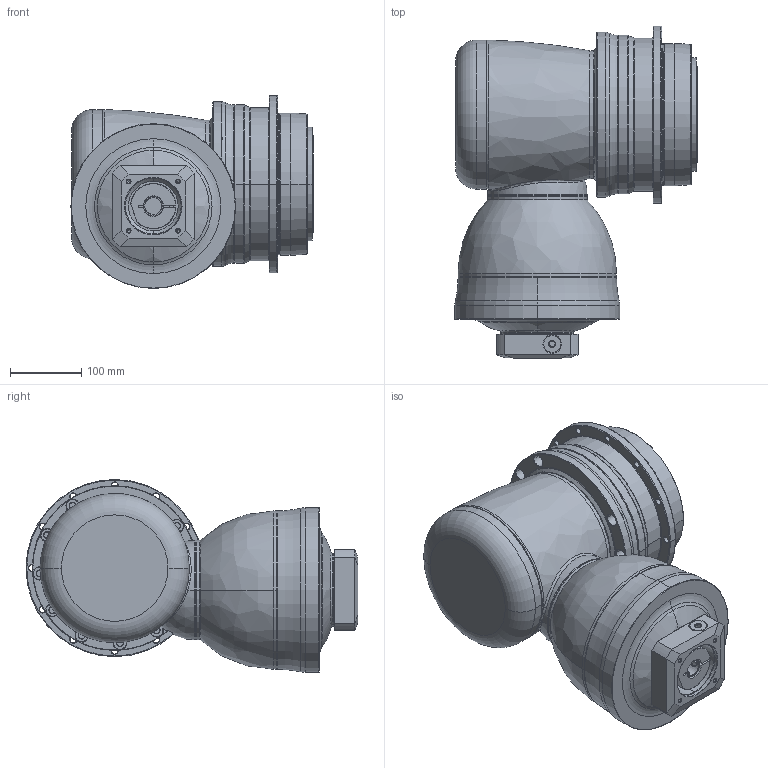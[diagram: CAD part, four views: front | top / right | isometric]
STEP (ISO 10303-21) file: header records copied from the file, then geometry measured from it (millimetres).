
FILE_DESCRIPTION((''),'2;1');
FILE_NAME('AHKB200_3ST_24-P0409500101_ASM','2016-12-14T',('d01943'),(''),'PRO/ENGINEER BY PARAMETRIC TECHNOLOGY CORPORATION, 2008410','PRO/ENGINEER BY PARAMETRIC TECHNOLOGY CORPORATION, 2008410','');
FILE_SCHEMA(('CONFIG_CONTROL_DESIGN'));
Length unit declared in the file: millimetre
Products named in the file (12): P1008600002; P1802600011; P0278600003; P0359600002; P1315600001; P1007600001; P1317600001; P0409500101; P0503500010; P0912500001; 21711418017; AHKB200_3ST_24-P0409500101_ASM
Assembly tree (11 placements, depth 2):
  AHKB200_3ST_24-P0409500101_ASM
    P1008600002
    P1802600011
    P0278600003
    P0359600002
    P1315600001
    P1007600001
    P1317600001
    P0409500101
    P0503500010
    P0912500001
    21711418017
Bounding box: 341 x 467.25 x 271.75 mm (x, y, z)
Volume: 13498397.6 mm3; surface area: 1127584.4 mm2
Topology: 12 solids, 12 shells, 990 faces, 2269 edges, 1304 vertices
Faces by surface type: cylinder 356, cone 332, plane 135, torus 126, bspline 39, sphere 2
Entity records: 34190 total; most frequent: CARTESIAN_POINT 11488, DIRECTION 5226, ORIENTED_EDGE 4350, AXIS2_PLACEMENT_3D 2233, EDGE_CURVE 2175, VERTEX_POINT 1304, CIRCLE 1259, EDGE_LOOP 1147
